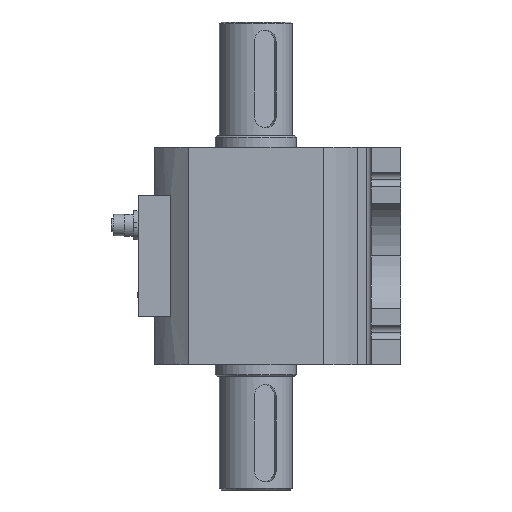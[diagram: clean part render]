
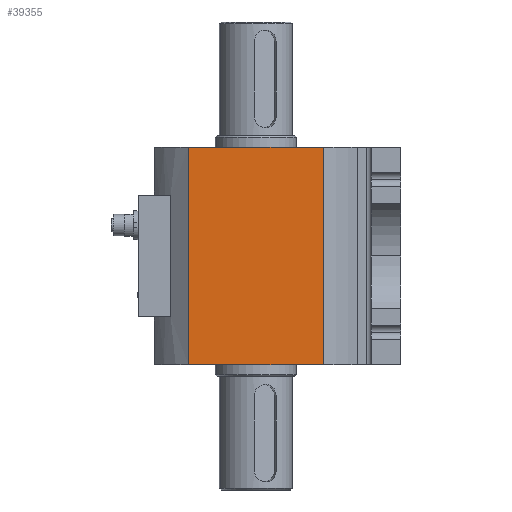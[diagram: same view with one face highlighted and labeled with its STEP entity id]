
A CAD part, left-side view. The second image highlights one B-rep face of the part: STEP entity #39355.
In plain terms, the highlighted planar face has unit normal (-1, 0, 0).
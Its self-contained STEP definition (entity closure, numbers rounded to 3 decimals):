
#277 = CARTESIAN_POINT ( 'NONE',  ( -62.5, 0., -67. ) ) ;
#3192 = VECTOR ( 'NONE', #36003, 1000. ) ;
#4801 = LINE ( 'NONE', #49965, #30384 ) ;
#4846 = CARTESIAN_POINT ( 'NONE',  ( -62.5, -41.458, 67. ) ) ;
#19347 = LINE ( 'NONE', #32057, #44792 ) ;
#19489 = EDGE_CURVE ( 'NONE', #55166, #21384, #42339, .T. ) ;
#19903 = EDGE_CURVE ( 'NONE', #21384, #24110, #4801, .T. ) ;
#21384 = VERTEX_POINT ( 'NONE', #44271 ) ;
#23506 = VERTEX_POINT ( 'NONE', #51710 ) ;
#23948 = LINE ( 'NONE', #4846, #25575 ) ;
#24110 = VERTEX_POINT ( 'NONE', #29372 ) ;
#25061 = DIRECTION ( 'NONE',  ( 0., 1., 0. ) ) ;
#25575 = VECTOR ( 'NONE', #40766, 1000. ) ;
#26096 = EDGE_CURVE ( 'NONE', #23506, #55166, #23948, .T. ) ;
#29372 = CARTESIAN_POINT ( 'NONE',  ( -62.5, 41.458, 67. ) ) ;
#29740 = DIRECTION ( 'NONE',  ( 0., 0., 1. ) ) ;
#29998 = PLANE ( 'NONE',  #47367 ) ;
#30384 = VECTOR ( 'NONE', #29740, 1000. ) ;
#31357 = ORIENTED_EDGE ( 'NONE', *, *, #19903, .F. ) ;
#32057 = CARTESIAN_POINT ( 'NONE',  ( -62.5, 48.97, 67. ) ) ;
#36003 = DIRECTION ( 'NONE',  ( 0., 1., 0. ) ) ;
#36918 = ORIENTED_EDGE ( 'NONE', *, *, #60765, .T. ) ;
#37095 = ORIENTED_EDGE ( 'NONE', *, *, #19489, .F. ) ;
#39355 = ADVANCED_FACE ( 'NONE', ( #43772 ), #29998, .F. ) ;
#40766 = DIRECTION ( 'NONE',  ( 0., 0., -1. ) ) ;
#42339 = LINE ( 'NONE', #277, #3192 ) ;
#43772 = FACE_OUTER_BOUND ( 'NONE', #59793, .T. ) ;
#44271 = CARTESIAN_POINT ( 'NONE',  ( -62.5, 41.458, -67. ) ) ;
#44792 = VECTOR ( 'NONE', #52264, 1000. ) ;
#45307 = CARTESIAN_POINT ( 'NONE',  ( -62.5, 48.97, -188. ) ) ;
#47367 = AXIS2_PLACEMENT_3D ( 'NONE', #45307, #55583, #25061 ) ;
#49965 = CARTESIAN_POINT ( 'NONE',  ( -62.5, 41.458, 67. ) ) ;
#51710 = CARTESIAN_POINT ( 'NONE',  ( -62.5, -41.458, 67. ) ) ;
#52264 = DIRECTION ( 'NONE',  ( 0., 1., 0. ) ) ;
#55166 = VERTEX_POINT ( 'NONE', #59488 ) ;
#55583 = DIRECTION ( 'NONE',  ( 1., 0., 0. ) ) ;
#59488 = CARTESIAN_POINT ( 'NONE',  ( -62.5, -41.458, -67. ) ) ;
#59793 = EDGE_LOOP ( 'NONE', ( #36918, #31357, #37095, #60575 ) ) ;
#60575 = ORIENTED_EDGE ( 'NONE', *, *, #26096, .F. ) ;
#60765 = EDGE_CURVE ( 'NONE', #23506, #24110, #19347, .T. ) ;
